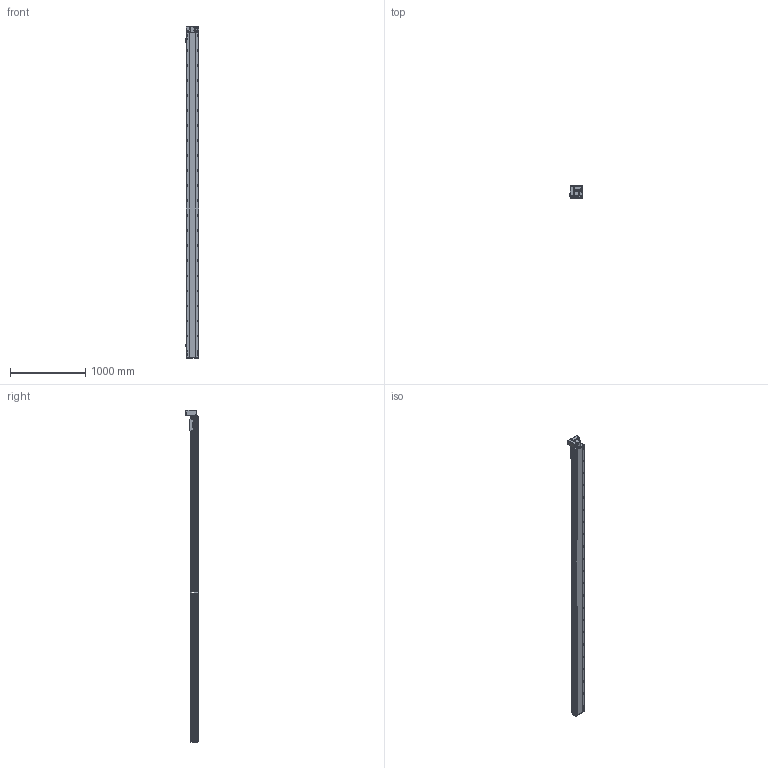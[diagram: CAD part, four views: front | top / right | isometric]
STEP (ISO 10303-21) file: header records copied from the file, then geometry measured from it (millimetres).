
FILE_DESCRIPTION (( 'STEP AP214' ), '1' );
FILE_NAME ('RTB17S-XX-4050-LW-M40-C4.STEP', '2025-12-11T07:28:50', ( '' ), ( '' ), 'SwSTEP 2.0', 'SolidWorks 2018', '' );
FILE_SCHEMA (( 'AUTOMOTIVE_DESIGN' ));
Length unit declared in the file: millimetre
Products named in the file (14): RTB17S-L-007奻裔^RTB17S-XX-XX-LW-M40-C4; RTH13-BL-012覜茼え俋离^RTB17S-XX-XX-LW-M40-C4; 400W侜督萇儂^RTB17S-XX-XX-LW-M40-C4; RTB14-L-005P--轴承塑胶压盖^RTB17S-LW-皮带座装配-400W_RTB17S-XX-XX-LW-M40-C4; RTB14-L-018P^RTB17S-LW-々湍釱蚾饜-400W_RTB17S-XX-XX-LW-M40-C4; RTB17S-L-004佪裝蹟譫蟀諉釱^RTB17S-XX-XX-LW-M40-C4; RTB14-L-017P^RTB17S-LW-々湍釱蚾饜-400W_RTB17S-XX-XX-LW-M40-C4; RTB17S-L-001耜醱啣^RTB17S-XX-XX-LW-M40-C4; RTB17S-XX-4050-LW-M40-C4; RTB17S-LW-々湍釱蚾饜-400W^RTB17S-XX-XX-LW-M40-C4; OMRON EE-SX672 传感器^RTB17S-XX-XX-LW-M40-C4; RTB17-R-011菁釱^RTB17S-XX-XX-LW-M40-C4; RTB17S-L-014-T20--々湍釱^RTB17S-LW-々湍釱蚾饜-400W_RTB17S-XX-XX-LW-M40-C4; RTB14-L-008-M20--萇儂啣^RTB17S-LW-々湍釱蚾饜-400W_RTB17S-XX-XX-LW-M40-C4
Assembly tree (16 placements, depth 3):
  RTB17S-XX-4050-LW-M40-C4
    RTB17-R-011菁釱^RTB17S-XX-XX-LW-M40-C4
    RTB17S-L-007奻裔^RTB17S-XX-XX-LW-M40-C4
    OMRON EE-SX672 传感器^RTB17S-XX-XX-LW-M40-C4  x3
    RTB17S-L-001耜醱啣^RTB17S-XX-XX-LW-M40-C4
    400W侜督萇儂^RTB17S-XX-XX-LW-M40-C4
    RTB17S-L-004佪裝蹟譫蟀諉釱^RTB17S-XX-XX-LW-M40-C4
    RTH13-BL-012覜茼え俋离^RTB17S-XX-XX-LW-M40-C4
    RTB17S-LW-々湍釱蚾饜-400W^RTB17S-XX-XX-LW-M40-C4
      RTB17S-L-014-T20--々湍釱^RTB17S-LW-々湍釱蚾饜-400W_RTB17S-XX-XX-LW-M40-C4
      RTB14-L-005P--轴承塑胶压盖^RTB17S-LW-皮带座装配-400W_RTB17S-XX-XX-LW-M40-C4
      RTB14-L-008-M20--萇儂啣^RTB17S-LW-々湍釱蚾饜-400W_RTB17S-XX-XX-LW-M40-C4
      RTB14-L-017P^RTB17S-LW-々湍釱蚾饜-400W_RTB17S-XX-XX-LW-M40-C4  x2
      RTB14-L-018P^RTB17S-LW-々湍釱蚾饜-400W_RTB17S-XX-XX-LW-M40-C4
Bounding box: 186 x 160.5 x 4422.5 mm (x, y, z)
Volume: 37241582.1 mm3; surface area: 4212202.2 mm2
Topology: 15 solids, 15 shells, 2461 faces, 6951 edges, 4545 vertices
Faces by surface type: plane 1100, cylinder 913, bspline 301, cone 139, torus 8
Entity records: 74921 total; most frequent: CARTESIAN_POINT 21556, ORIENTED_EDGE 10746, DIRECTION 9836, EDGE_CURVE 5373, VERTEX_POINT 3533, AXIS2_PLACEMENT_3D 3463, LINE 2910, VECTOR 2910
